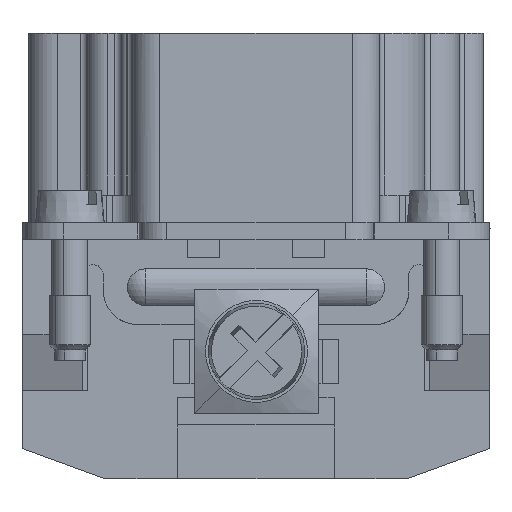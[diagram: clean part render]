
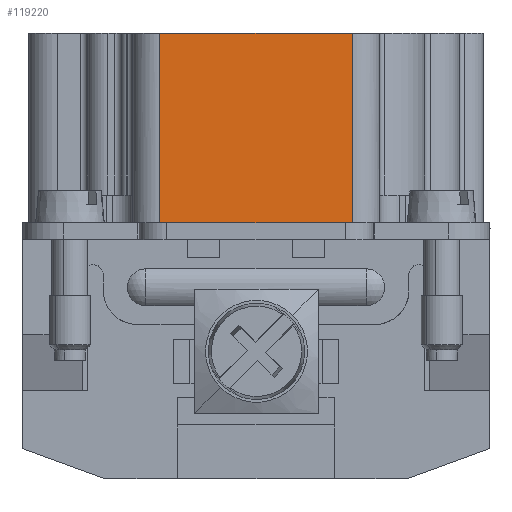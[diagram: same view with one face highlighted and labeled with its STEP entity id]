
A CAD part, front view. The second image highlights one B-rep face of the part: STEP entity #119220.
In plain terms, the highlighted planar face has unit normal (0, -1, 0.018) as drawn and (1, 0, -0.017) by its records, which use the part's own axes.
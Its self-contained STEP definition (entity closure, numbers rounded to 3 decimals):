
#58450=CARTESIAN_POINT('',(52.498,6.341,
16.65));
#58460=VERTEX_POINT('',#58450);
#58630=CARTESIAN_POINT('',(52.258,6.341,
2.9));
#58640=VERTEX_POINT('',#58630);
#58670=CARTESIAN_POINT('',(52.257,6.341,
2.865));
#58680=DIRECTION('',(0.017,0.,
1.));
#58690=VECTOR('',#58680,1.);
#58700=LINE('',#58670,#58690);
#58710=EDGE_CURVE('',#58640,#58460,#58700,.T.);
#98240=CARTESIAN_POINT('',(52.498,-0.809,
16.65));
#98250=DIRECTION('',(0.,-1.,0.));
#98260=VECTOR('',#98250,1.);
#98270=LINE('',#98240,#98260);
#98280=CARTESIAN_POINT('',(52.498,5.841,
16.65));
#98290=VERTEX_POINT('',#98280);
#98300=EDGE_CURVE('',#58460,#98290,#98270,.T.);
#98700=CARTESIAN_POINT('',(52.498,-7.159,
16.65));
#98710=VERTEX_POINT('',#98700);
#98740=CARTESIAN_POINT('',(52.498,-0.809,
16.65));
#98750=DIRECTION('',(0.,-1.,0.));
#98760=VECTOR('',#98750,1.);
#98770=LINE('',#98740,#98760);
#98780=CARTESIAN_POINT('',(52.498,-7.659,
16.65));
#98790=VERTEX_POINT('',#98780);
#98800=EDGE_CURVE('',#98710,#98790,#98770,.T.);
#101480=CARTESIAN_POINT('',(52.258,-7.659,
2.9));
#101490=VERTEX_POINT('',#101480);
#101550=CARTESIAN_POINT('',(52.257,-7.659,
2.865));
#101560=DIRECTION('',(-0.017,0.,
-1.));
#101570=VECTOR('',#101560,1.);
#101580=LINE('',#101550,#101570);
#101590=EDGE_CURVE('',#98790,#101490,#101580,.T.);
#118990=CARTESIAN_POINT('',(52.866,-27.07,
37.747));
#119000=DIRECTION('',(1.,0.,
-0.017));
#119010=DIRECTION('',(0.,-1.,0.));
#119020=AXIS2_PLACEMENT_3D('',#118990,#119000,#119010);
#119030=PLANE('',#119020);
#119040=CARTESIAN_POINT('',(52.258,-0.809,
2.9));
#119050=DIRECTION('',(0.,1.,0.));
#119060=VECTOR('',#119050,1.);
#119070=LINE('',#119040,#119060);
#119080=EDGE_CURVE('',#101490,#58640,#119070,.T.);
#119090=ORIENTED_EDGE('',*,*,#119080,.T.);
#119100=ORIENTED_EDGE('',*,*,#101590,.T.);
#119110=ORIENTED_EDGE('',*,*,#98800,.T.);
#119120=CARTESIAN_POINT('',(52.498,-0.809,
16.65));
#119130=DIRECTION('',(0.,-1.,0.));
#119140=VECTOR('',#119130,1.);
#119150=LINE('',#119120,#119140);
#119160=EDGE_CURVE('',#98290,#98710,#119150,.T.);
#119170=ORIENTED_EDGE('',*,*,#119160,.T.);
#119180=ORIENTED_EDGE('',*,*,#98300,.T.);
#119190=ORIENTED_EDGE('',*,*,#58710,.T.);
#119200=EDGE_LOOP('',(#119190,#119180,#119170,#119110,#119100,#119090));
#119210=FACE_OUTER_BOUND('',#119200,.T.);
#119220=ADVANCED_FACE('',(#119210),#119030,.T.);
